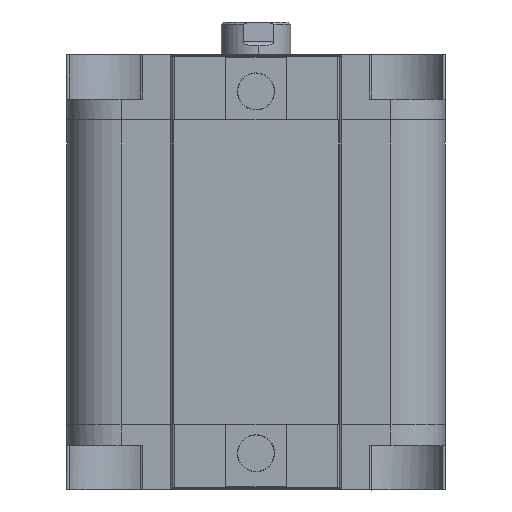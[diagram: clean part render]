
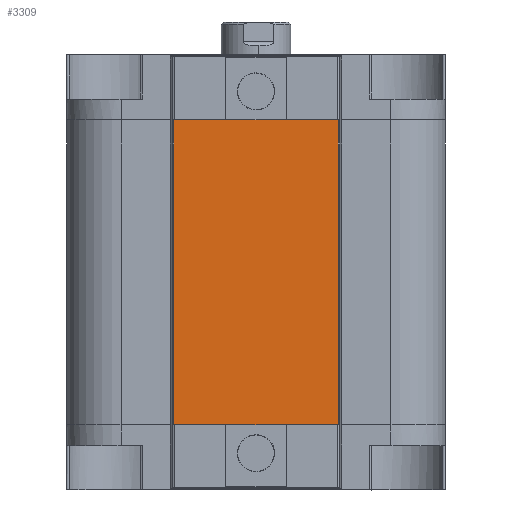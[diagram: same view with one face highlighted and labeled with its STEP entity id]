
A CAD part, front view. The second image highlights one B-rep face of the part: STEP entity #3309.
In plain terms, the highlighted planar face has unit normal (0, -1, 0).
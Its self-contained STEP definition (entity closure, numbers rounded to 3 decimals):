
#976 = EDGE_LOOP ( 'NONE', ( #8608, #4862, #9973, #17587 ) ) ;
#1797 = DIRECTION ( 'NONE',  ( 0., 0., -1. ) ) ;
#2226 = CARTESIAN_POINT ( 'NONE',  ( 18.838, -47.5, -35. ) ) ;
#3309 = ADVANCED_FACE ( 'NONE', ( #9183 ), #9394, .F. ) ;
#3691 = CARTESIAN_POINT ( 'NONE',  ( -18.838, -47.5, -70. ) ) ;
#4490 = CARTESIAN_POINT ( 'NONE',  ( 18.838, -47.5, 0. ) ) ;
#4662 = VERTEX_POINT ( 'NONE', #4490 ) ;
#4862 = ORIENTED_EDGE ( 'NONE', *, *, #17447, .F. ) ;
#6227 = VECTOR ( 'NONE', #11164, 1000. ) ;
#6914 = CARTESIAN_POINT ( 'NONE',  ( 18.838, -47.5, -70. ) ) ;
#6989 = VECTOR ( 'NONE', #1797, 1000. ) ;
#7524 = CARTESIAN_POINT ( 'NONE',  ( -18.838, -47.5, 0. ) ) ;
#8608 = ORIENTED_EDGE ( 'NONE', *, *, #14467, .T. ) ;
#9183 = FACE_OUTER_BOUND ( 'NONE', #976, .T. ) ;
#9394 = PLANE ( 'NONE',  #15538 ) ;
#9415 = CARTESIAN_POINT ( 'NONE',  ( -18.838, -47.5, -70. ) ) ;
#9446 = DIRECTION ( 'NONE',  ( 0., 1., 0. ) ) ;
#9472 = DIRECTION ( 'NONE',  ( 0., 0., 1. ) ) ;
#9973 = ORIENTED_EDGE ( 'NONE', *, *, #13936, .F. ) ;
#10997 = CARTESIAN_POINT ( 'NONE',  ( -18.838, -47.5, -70. ) ) ;
#11164 = DIRECTION ( 'NONE',  ( 1., 0., 0. ) ) ;
#12786 = VERTEX_POINT ( 'NONE', #6914 ) ;
#12962 = VERTEX_POINT ( 'NONE', #3691 ) ;
#13936 = EDGE_CURVE ( 'NONE', #19085, #4662, #16533, .T. ) ;
#14467 = EDGE_CURVE ( 'NONE', #12962, #12786, #19982, .T. ) ;
#14941 = VECTOR ( 'NONE', #15839, 1000. ) ;
#15538 = AXIS2_PLACEMENT_3D ( 'NONE', #9415, #9446, #9472 ) ;
#15764 = CARTESIAN_POINT ( 'NONE',  ( -43.5, -47.5, 0. ) ) ;
#15839 = DIRECTION ( 'NONE',  ( 1., 0., 0. ) ) ;
#16214 = DIRECTION ( 'NONE',  ( 0., 0., 1. ) ) ;
#16533 = LINE ( 'NONE', #15764, #14941 ) ;
#16653 = LINE ( 'NONE', #16802, #21685 ) ;
#16802 = CARTESIAN_POINT ( 'NONE',  ( -18.838, -47.5, -35. ) ) ;
#17447 = EDGE_CURVE ( 'NONE', #4662, #12786, #20639, .T. ) ;
#17587 = ORIENTED_EDGE ( 'NONE', *, *, #18818, .F. ) ;
#18818 = EDGE_CURVE ( 'NONE', #12962, #19085, #16653, .T. ) ;
#19085 = VERTEX_POINT ( 'NONE', #7524 ) ;
#19982 = LINE ( 'NONE', #10997, #6227 ) ;
#20639 = LINE ( 'NONE', #2226, #6989 ) ;
#21685 = VECTOR ( 'NONE', #16214, 1000. ) ;
